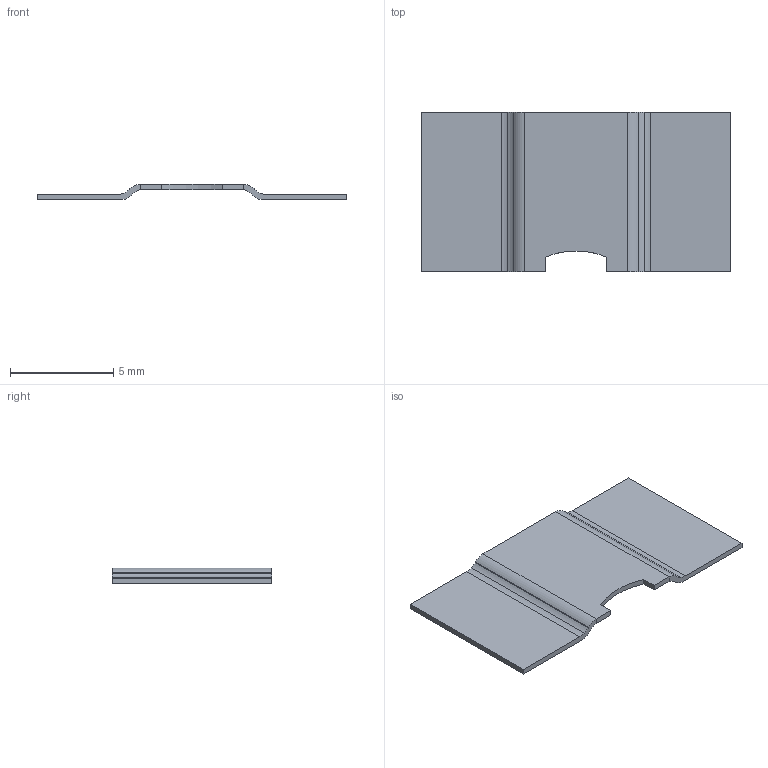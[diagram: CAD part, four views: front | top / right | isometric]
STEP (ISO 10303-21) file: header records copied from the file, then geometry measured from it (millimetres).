
FILE_DESCRIPTION (( 'STEP AP214' ), '1' );
FILE_NAME ('WSLP5931 (0.003).step', '2018-11-05T17:01:47', ( '' ), ( '' ), 'SwSTEP 2.0', 'SolidWorks 2018', '' );
FILE_SCHEMA (( 'AUTOMOTIVE_DESIGN' ));
Length unit declared in the file: millimetre
Products named in the file (1): WSLP5931 (0.003)
Bounding box: 15 x 7.75 x 0.77 mm (x, y, z)
Volume: 31.1 mm3; surface area: 252.5 mm2
Topology: 3 solids, 3 shells, 38 faces, 96 edges, 64 vertices
Faces by surface type: plane 25, cylinder 13
Entity records: 1198 total; most frequent: DIRECTION 200, CARTESIAN_POINT 199, ORIENTED_EDGE 192, EDGE_CURVE 96, VECTOR 70, LINE 70, AXIS2_PLACEMENT_3D 65, VERTEX_POINT 64
